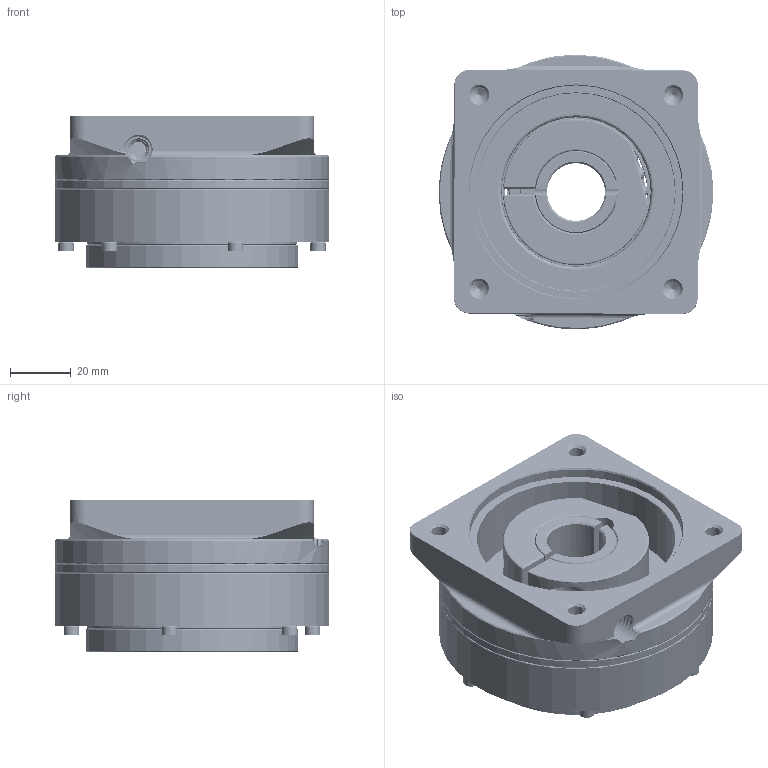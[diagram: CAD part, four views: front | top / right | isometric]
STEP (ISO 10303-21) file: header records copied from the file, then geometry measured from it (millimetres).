
FILE_DESCRIPTION (( 'STEP AP203' ), '1' );
FILE_NAME ('90型裝配體-外觀圖.STEP', '2017-09-30T09:04:19', ( 'user' ), ( '' ), 'SwSTEP 2.0', 'SolidWorks 2015', '' );
FILE_SCHEMA (( 'CONFIG_CONTROL_DESIGN' ));
Length unit declared in the file: millimetre
Products named in the file (23): DE蚐猾 69 78 5; 90椭圆芯-19圈; 90柔轮轴承保持架; ﾂﾝﾋｨM2｡ﾁ6; 90柔轮轴承-挡板; 90交叉轴承-外圈; 90型中空轴承装配体; 90电机连接法兰--短-改; ﾃﾜｷ篳ｦ53｡ﾁ55｡ﾁ1; 90邳埴-煦; 90交叉轴承-内圈; 90蹟邡M3℅24; 90蝠脫粣創-眄輸; ﾂﾝﾋｨM3｡ﾁ8; 90蝠脫粣創-幗赽-42; 90邳埴郋-19-傻; 90型裝配體-外觀圖; 柔轮-椭圆-椭圆芯装配-短; 90喘遠x0 a30 DP100 z202; ﾃﾜｷ篳ｦ72｡ﾁ76｡ﾁ2; 90 縐銅; 柔轮x-0.3 a34 DP100 z200样品; 90柔轮轴承
Assembly tree (87 placements, depth 3):
  90型裝配體-外觀圖
    90喘遠x0 a30 DP100 z202
    柔轮x-0.3 a34 DP100 z200样品
    ﾃﾜｷ篳ｦ72｡ﾁ76｡ﾁ2
    ﾃﾜｷ篳ｦ53｡ﾁ55｡ﾁ1
    90型中空轴承装配体
      90交叉轴承-内圈
      90蝠脫粣創-眄輸
      90蝠脫粣創-幗赽-42  x42
      90交叉轴承-外圈
      DE蚐猾 69 78 5
      ﾂﾝﾋｨM2｡ﾁ6
    90电机连接法兰--短-改
    90蹟邡M3℅24  x6
    ﾂﾝﾋｨM3｡ﾁ8  x20
    柔轮-椭圆-椭圆芯装配-短
      90邳埴郋-19-傻
      90邳埴-煦
      90柔轮轴承
      90柔轮轴承保持架
      90柔轮轴承-挡板
      90 縐銅
      90椭圆芯-19圈
Bounding box: 90.2 x 90.2 x 50 mm (x, y, z)
Volume: 186465.9 mm3; surface area: 128201.1 mm2
Topology: 85 solids, 85 shells, 5218 faces, 14074 edges, 8943 vertices
Faces by surface type: cylinder 2470, bspline 1162, cone 895, plane 691
Entity records: 159036 total; most frequent: CARTESIAN_POINT 77435, ORIENTED_EDGE 17738, DIRECTION 14495, EDGE_CURVE 8869, AXIS2_PLACEMENT_3D 5738, VERTEX_POINT 5722, EDGE_LOOP 3443, CIRCLE 3376
